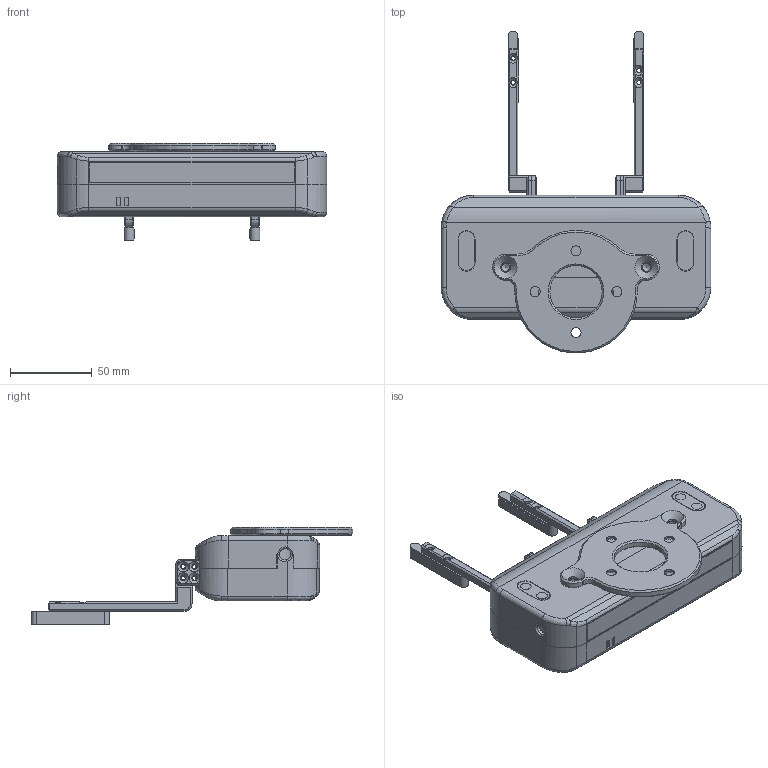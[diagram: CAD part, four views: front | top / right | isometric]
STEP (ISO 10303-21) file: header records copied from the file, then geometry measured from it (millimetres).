
FILE_DESCRIPTION (( 'STEP AP203' ), '1' );
FILE_NAME ('BIO Gripper(AB1001).STEP', '2021-12-11T07:28:46', ( '' ), ( '' ), 'SwSTEP 2.0', 'SolidWorks 2016', '' );
FILE_SCHEMA (( 'CONFIG_CONTROL_DESIGN' ));
Length unit declared in the file: millimetre
Products named in the file (3): BIO Gripper(AB1001); BIO Gripper Fingers
Assembly tree (2 placements, depth 2):
  BIO Gripper(AB1001)
    BIO Gripper Fingers
    BIO Gripper(AB1001)
Bounding box: 165 x 196.86 x 59.5 mm (x, y, z)
Volume: 393220.8 mm3; surface area: 128447.5 mm2
Topology: 14 solids, 14 shells, 750 faces, 1823 edges, 1097 vertices
Faces by surface type: plane 303, cylinder 218, bspline 137, cone 92
Full cylindrical faces by diameter (mm): 2.5 x12, 3 x5, 3.2 x16, 3.5 x1, 5 x2, 6.2 x6, 8 x4, 32 x1
Entity records: 27886 total; most frequent: CARTESIAN_POINT 11156, ORIENTED_EDGE 3412, DIRECTION 3217, EDGE_CURVE 1706, AXIS2_PLACEMENT_3D 1157, VERTEX_POINT 1081, EDGE_LOOP 935, LINE 903
